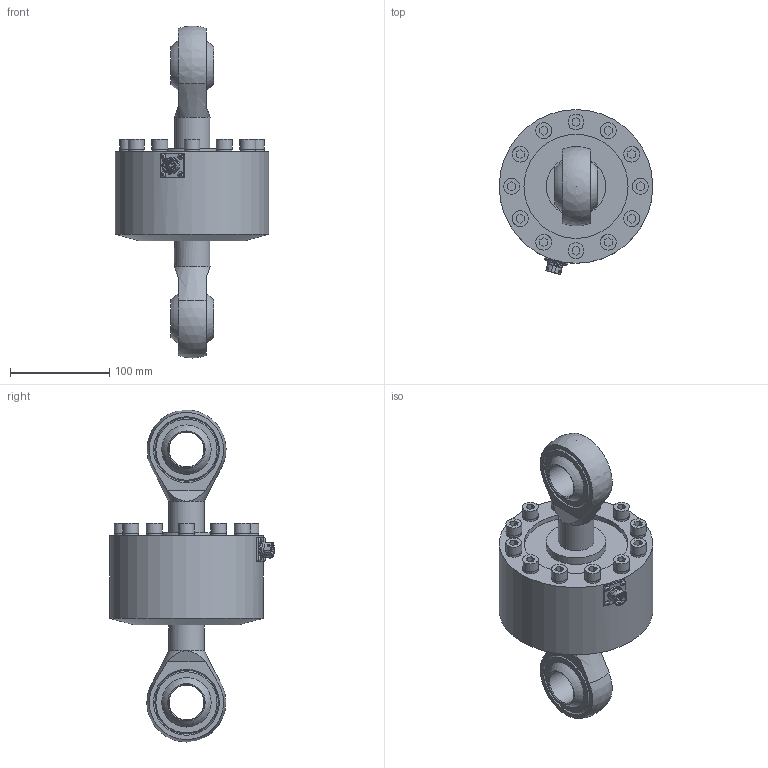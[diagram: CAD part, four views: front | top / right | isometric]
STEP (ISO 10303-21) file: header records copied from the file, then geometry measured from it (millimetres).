
FILE_DESCRIPTION(/* description */ (''),/* implementation_level */ '2;1');
FILE_NAME(/* name */ 'I:/New Datasheets/STEP Models/Pending models/DSCC 100-250kN with base and rod ends.step',/* time_stamp */ '2019-08-16T16:50:46+01:00',/* author */ (''),/* organization */ (''),/* preprocessor_version */ 'ST-DEVELOPER v18',/* originating_system */ 'Autodesk Translation Framework v8.6.0.1094',/* authorisation */ '');
FILE_SCHEMA (('AUTOMOTIVE_DESIGN { 1 0 10303 214 3 1 1 }'));
Products named in the file (2): DSCC Size 2 with base and rod ends; Dscc Size 2 with base and rod ends_1
Assembly tree (1 placements, depth 2):
  DSCC Size 2 with base and rod ends
    Dscc Size 2 with base and rod ends_1
Bounding box: 155 x 166.27 x 335 mm (x, y, z)
Volume: 1965253 mm3; surface area: 255112.4 mm2
Topology: 1 solids, 49 shells, 974 faces, 2480 edges, 1691 vertices
Faces by surface type: plane 427, cylinder 289, bspline 128, cone 78, sphere 30, torus 22
Full cylindrical faces by diameter (mm): 1 x3, 1.009 x6, 1.165 x6, 1.2 x6, 1.4 x6, 1.52 x3, 1.6 x3, 2 x12, 2.03 x3, 2.2 x12, 2.529 x4, 3 x4, 3.2 x4, 5 x1, 8.526 x12, 10 x12, 10.25 x2, 10.9 x1, 11 x12, 11.05 x1, 11.35 x1, 12.55 x1, 13.85 x1, 13.9 x1, 14 x1, 14.95 x1, 15 x1, 16 x12, 34.023 x2, 35 x2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
Entity records: 55772 total; most frequent: CARTESIAN_POINT 32493, ORIENTED_EDGE 4914, DIRECTION 4511, EDGE_CURVE 2457, VERTEX_POINT 1690, AXIS2_PLACEMENT_3D 1671, LINE 1169, VECTOR 1169
